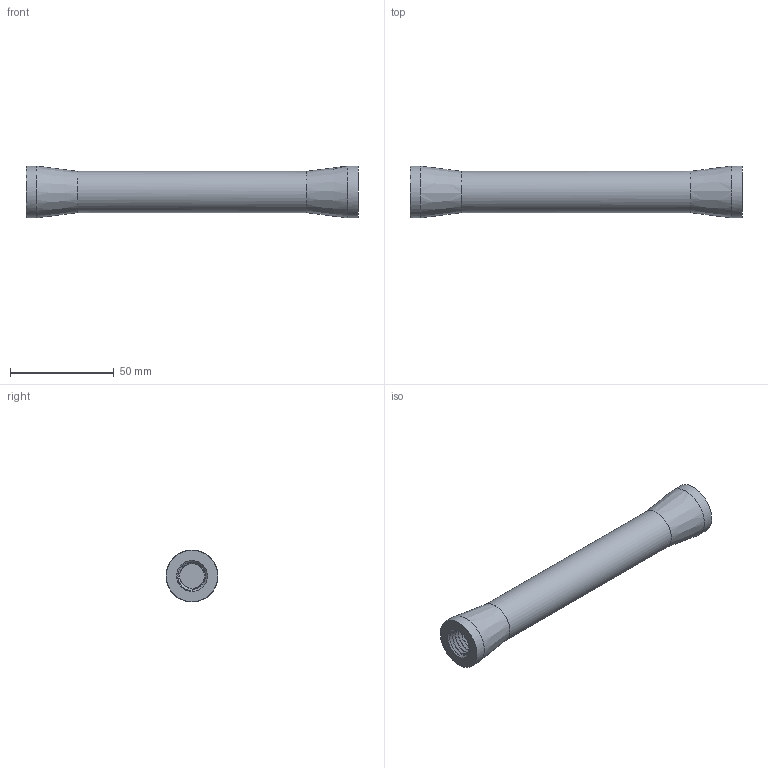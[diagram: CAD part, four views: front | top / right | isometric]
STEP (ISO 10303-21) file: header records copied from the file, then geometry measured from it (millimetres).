
FILE_DESCRIPTION(('HOOPS Exchange Step'),'2;1');
FILE_NAME('/private/var/mobile/Containers/Data/Application/E34E9B9D-13F5-4398-A6D4-3D2E6F602CF2/tmp/export/temp_export','2023-02-19T17:27:10-06:00',('mobile'),('Shapr3D Limited'),'HOOPS Exchange 2022.2','Shapr3D','Authorized');
FILE_SCHEMA( ('AUTOMOTIVE_DESIGN { 1 0 10303 214 1 1 1 1 }') );
Length unit declared in the file: millimetre
Products named in the file (1): Spacer 1-160
Bounding box: 160 x 25 x 25 mm (x, y, z)
Volume: 49653.3 mm3; surface area: 13731.7 mm2
Topology: 1 solids, 1 shells, 39 faces, 113 edges, 78 vertices
Faces by surface type: cylinder 25, plane 6, bspline 6, cone 2
Full cylindrical faces by diameter (mm): 14 x18, 19.9 x1, 25 x2
Entity records: 21269 total; most frequent: CARTESIAN_POINT 20403, ORIENTED_EDGE 226, DIRECTION 123, EDGE_CURVE 113, VERTEX_POINT 78, AXIS2_PLACEMENT_3D 48, EDGE_LOOP 41, FACE_BOUND 41
